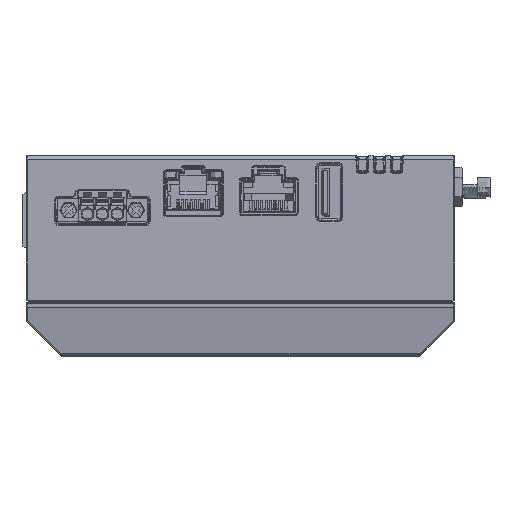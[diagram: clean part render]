
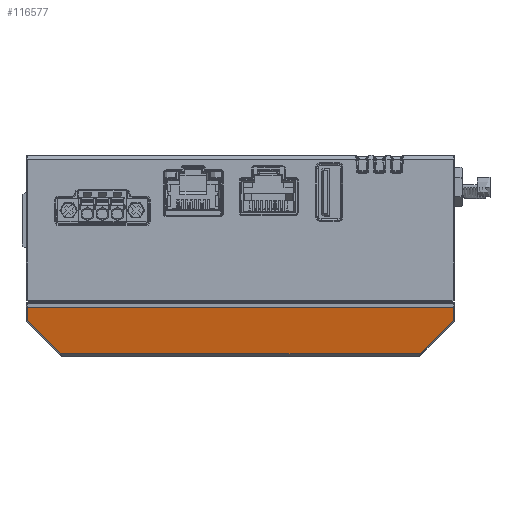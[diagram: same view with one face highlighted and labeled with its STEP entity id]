
A CAD part, top view. The second image highlights one B-rep face of the part: STEP entity #116577.
In plain terms, the highlighted planar face has unit normal (0, -0.171, 0.985).
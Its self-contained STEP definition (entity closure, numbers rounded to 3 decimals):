
#87834=DIRECTION('',(1.,0.,0.));
#87835=VECTOR('',#87834,84.063);
#87836=CARTESIAN_POINT('',(-42.031,-12.22,
28.101));
#87837=LINE('',#87836,#87835);
#97131=DIRECTION('',(0.,0.985,0.171));
#97132=VECTOR('',#97131,3.199);
#97133=CARTESIAN_POINT('',(49.8,-4.451,
29.452));
#97134=LINE('',#97133,#97132);
#97135=DIRECTION('',(0.702,0.702,0.122));
#97136=VECTOR('',#97135,11.069);
#97137=CARTESIAN_POINT('',(42.031,-12.22,
28.101));
#97138=LINE('',#97137,#97136);
#97139=DIRECTION('',(0.702,-0.702,-0.122));
#97140=VECTOR('',#97139,11.069);
#97141=CARTESIAN_POINT('',(-49.8,-4.451,
29.452));
#97142=LINE('',#97141,#97140);
#97143=DIRECTION('',(-1.,0.,0.));
#97144=VECTOR('',#97143,99.6);
#97145=CARTESIAN_POINT('',(49.8,-1.3,
30.));
#97146=LINE('',#97145,#97144);
#97162=DIRECTION('',(0.,-0.985,-0.171));
#97163=VECTOR('',#97162,3.199);
#97164=CARTESIAN_POINT('',(-49.8,-1.3,
30.));
#97165=LINE('',#97164,#97163);
#97397=CARTESIAN_POINT('',(49.8,-1.3,
30.));
#97399=VERTEX_POINT('',#97397);
#97401=CARTESIAN_POINT('',(-49.8,-1.3,
30.));
#97402=VERTEX_POINT('',#97401);
#97415=CARTESIAN_POINT('',(49.8,-4.451,
29.452));
#97416=VERTEX_POINT('',#97415);
#97417=CARTESIAN_POINT('',(42.031,-12.22,
28.101));
#97418=VERTEX_POINT('',#97417);
#97419=CARTESIAN_POINT('',(-42.031,-12.22,
28.101));
#97420=VERTEX_POINT('',#97419);
#97421=CARTESIAN_POINT('',(-49.8,-4.451,
29.452));
#97422=VERTEX_POINT('',#97421);
#116561=CARTESIAN_POINT('',(0.,-6.76,29.05));
#116562=DIRECTION('',(0.,-0.171,0.985));
#116563=DIRECTION('',(0.,-0.985,-0.171));
#116564=AXIS2_PLACEMENT_3D('',#116561,#116562,#116563);
#116565=PLANE('',#116564);
#116566=ORIENTED_EDGE('',*,*,#116544,.F.);
#116567=ORIENTED_EDGE('',*,*,#99398,.F.);
#116568=ORIENTED_EDGE('',*,*,#99497,.F.);
#116570=ORIENTED_EDGE('',*,*,#116569,.F.);
#116572=ORIENTED_EDGE('',*,*,#116571,.F.);
#116574=ORIENTED_EDGE('',*,*,#116573,.F.);
#116575=EDGE_LOOP('',(#116566,#116567,#116568,#116570,#116572,#116574));
#116576=FACE_OUTER_BOUND('',#116575,.F.);
#99398=EDGE_CURVE('',#97418,#97416,#97138,.T.);
#99497=EDGE_CURVE('',#97420,#97418,#87837,.T.);
#116544=EDGE_CURVE('',#97416,#97399,#97134,.T.);
#116569=EDGE_CURVE('',#97422,#97420,#97142,.T.);
#116571=EDGE_CURVE('',#97402,#97422,#97165,.T.);
#116573=EDGE_CURVE('',#97399,#97402,#97146,.T.);
#116577=ADVANCED_FACE('',(#116576),#116565,.T.);
